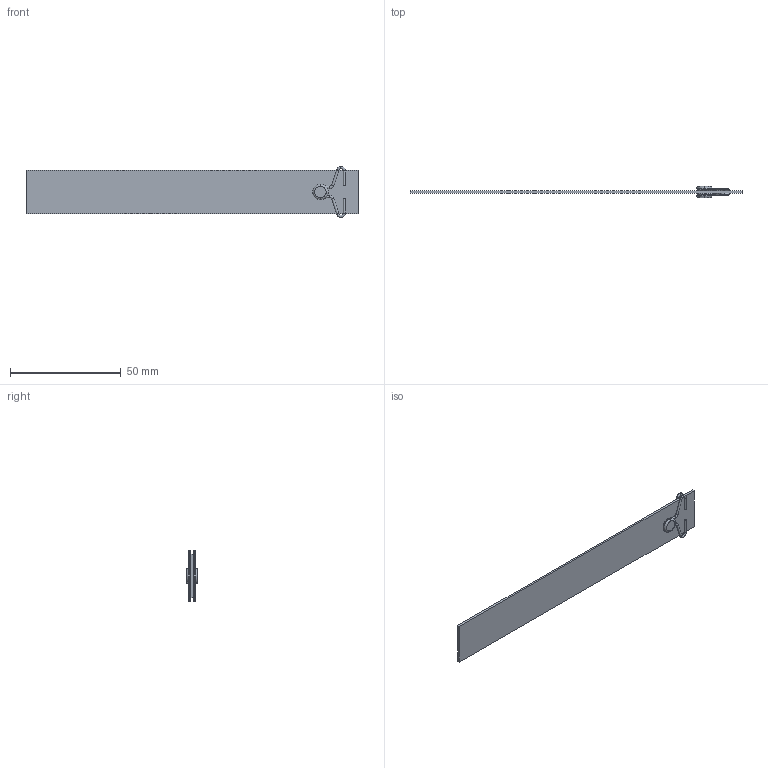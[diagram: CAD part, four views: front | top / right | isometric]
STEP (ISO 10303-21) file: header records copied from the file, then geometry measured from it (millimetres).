
FILE_DESCRIPTION (( 'STEP AP203' ), '1' );
FILE_NAME ('RLA-20x150.STEP', '2015-12-10T16:16:51', ( 'Balzi' ), ( '' ), 'SwSTEP 2.0', 'SolidWorks 2015', '' );
FILE_SCHEMA (( 'CONFIG_CONTROL_DESIGN' ));
Length unit declared in the file: millimetre
Products named in the file (1): RLA-20x150
Bounding box: 150 x 5 x 22.99 mm (x, y, z)
Volume: 3115.9 mm3; surface area: 6803.6 mm2
Topology: 5 solids, 5 shells, 84 faces, 162 edges, 88 vertices
Faces by surface type: torus 40, cylinder 30, plane 14
Entity records: 2199 total; most frequent: DIRECTION 452, CARTESIAN_POINT 335, ORIENTED_EDGE 324, AXIS2_PLACEMENT_3D 205, EDGE_CURVE 162, CIRCLE 120, VERTEX_POINT 88, EDGE_LOOP 86
